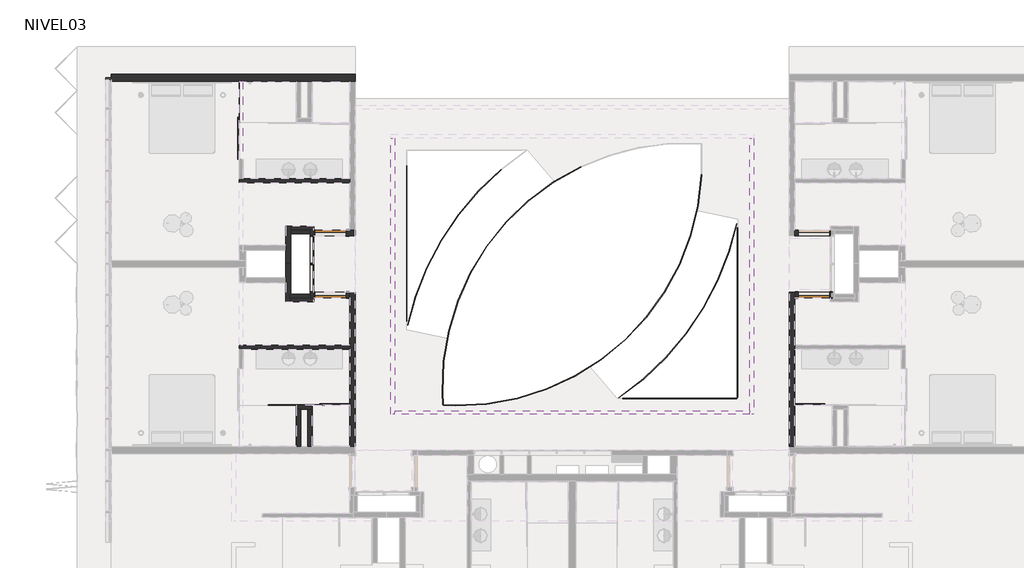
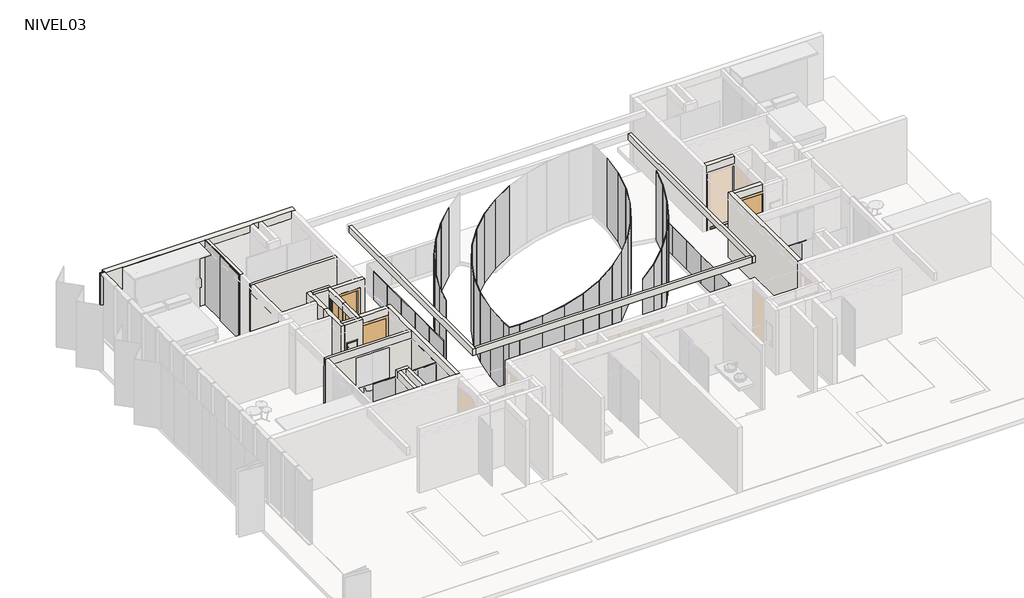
# One storey, part 5 of 8: 56 plates, 30 walls, 5 doors, 1 member.
"""IFC4 building model written with IfcOpenShell, lengths in millimetres."""

from ifc_helpers import new_model, si_unit, frame, origin, place, context, project, spatial, polyline, outline, extrude, faceted_brep, transform, mapped, element, save
from components import m_single_flush_910x_224_a4f79d59, m_single_flush_910x_224_d199ccfa, puerta_closet_shaft_82_5_x_224cm_10222c01, puerta_closet_shaft_82_5_x_224cm_6ba6ac82, rectangular_mullion_50_x_150mm_da4cfd0d, panel_corredera_cr_panel_corredera_1cb9417a, panel_corredera_cr_panel_corredera_99e605cf, panel_corredera_cr_panel_corredera_8db39db7, system_panel_5ccbd7a3, system_panel_34dc83f9, system_panel_bb99d6db, system_panel_d16f8cfc, system_panel_5bddcc3b, system_panel_8f9a12f6, system_panel_c363a63a, system_panel_ba3bad07, system_panel_cr_shower_c0953742, system_panel_cr_shower_685ec66b

model = new_model("IFC4")

# Units and contexts
model_context = context("Model", 3, world=origin())
ifc_project = project(units=[si_unit("LENGTHUNIT", "METRE", prefix="MILLI")], contexts=[model_context])

# Site, building, storey
site = spatial("IfcSite", under=ifc_project)
building = spatial("IfcBuilding", under=site)
storey = spatial("IfcBuildingStorey", under=building, Name="NIVEL03", Elevation=5220.0)

# Doors
placement = place(None, origin())
m_single_flush_910x_224_shape = m_single_flush_910x_224_a4f79d59(model_context)
element("IfcDoor", 1, ObjectType="M_Single-Flush : 910x 224", at=placement, inside=storey, context=model_context, shape_type="MappedRepresentation", body=[
    mapped(m_single_flush_910x_224_shape, transform((-14191.0934748, 6033.9139241, 5220.0), x_axis=(1.0, 0.0, 0.0), y_axis=(0.0, 1.0, 0.0), z_axis=(0.0, 0.0, 1.0))),
])
element("IfcDoor", 2, ObjectType="M_Single-Flush : 910x 224", at=placement, inside=storey, context=model_context, shape_type="MappedRepresentation", body=[
    mapped(m_single_flush_910x_224_shape, transform((-176.0934748, 4233.9139241, 5220.0), x_axis=(-1.0, 0.0, 0.0), y_axis=(0.0, -1.0, 0.0), z_axis=(0.0, 0.0, 1.0))),
])
m_single_flush_910x_224_2_shape = m_single_flush_910x_224_d199ccfa(model_context)
element("IfcDoor", 3, ObjectType="M_Single-Flush : 910x 224", at=placement, inside=storey, context=model_context, shape_type="MappedRepresentation", body=[
    mapped(m_single_flush_910x_224_2_shape, transform((-14191.0934748, 4233.9139241, 5220.0), x_axis=(1.0, 0.0, 0.0), y_axis=(0.0, 1.0, 0.0), z_axis=(0.0, 0.0, 1.0))),
])
puerta_closet_shaft_82_5_x_224cm_shape = puerta_closet_shaft_82_5_x_224cm_10222c01(model_context)
element("IfcDoor", 4, ObjectType="PUERTA CLOSET SHAFT : 82.5 x 224cm", at=placement, inside=storey, context=model_context, shape_type="MappedRepresentation", body=[
    mapped(puerta_closet_shaft_82_5_x_224cm_shape, transform((-14728.5934748, 4404.8823532, 5220.0), x_axis=(0.0, -1.0, 0.0), y_axis=(1.0, 0.0, 0.0), z_axis=(0.0, 0.0, 1.0))),
])
puerta_closet_shaft_82_5_x_224cm_2_shape = puerta_closet_shaft_82_5_x_224cm_6ba6ac82(model_context)
element("IfcDoor", 5, ObjectType="PUERTA CLOSET SHAFT : 82.5 x 224cm", at=placement, inside=storey, context=model_context, shape_type="MappedRepresentation", body=[
    mapped(puerta_closet_shaft_82_5_x_224cm_2_shape, transform((-14728.5934748, 5862.9454949, 5220.0), x_axis=(0.0, 1.0, 0.0), y_axis=(-1.0, 0.0, 0.0), z_axis=(0.0, 0.0, 1.0))),
])

# Member
rectangular_mullion_50_x_150mm_shape = rectangular_mullion_50_x_150mm_da4cfd0d(model_context)
element("IfcMember", 6, ObjectType="Rectangular Mullion : 50 x 150mm", at=placement, inside=storey, context=model_context, shape_type="MappedRepresentation", body=[
    mapped(rectangular_mullion_50_x_150mm_shape, transform((-20633.5934748, 10533.9139241, 7770.0), x_axis=(0.0, 1.0, 0.0), y_axis=(-1.0, 0.0, 0.0), z_axis=(0.0, 0.0, 1.0))),
])

# Plates
panel_corredera_cr_panel_corredera_shape = panel_corredera_cr_panel_corredera_1cb9417a(model_context)
element("IfcPlate", 7, ObjectType="PANEL CORREDERA : CR_PANEL CORREDERA", at=placement, inside=storey, context=model_context, shape_type="MappedRepresentation", body=[
    mapped(panel_corredera_cr_panel_corredera_shape, transform((-13994.9268082, 1033.9139241, 5220.0), x_axis=(-1.0, 0.0, 0.0), y_axis=(0.0, -1.0, 0.0), z_axis=(0.0, 0.0, 1.0))),
])
panel_corredera_cr_panel_corredera_2_shape = panel_corredera_cr_panel_corredera_99e605cf(model_context)
element("IfcPlate", 8, ObjectType="PANEL CORREDERA : CR_PANEL CORREDERA", at=placement, inside=storey, context=model_context, shape_type="MappedRepresentation", body=[
    mapped(panel_corredera_cr_panel_corredera_2_shape, transform((-372.2601415, 1033.9139241, 5220.0), x_axis=(1.0, 0.0, 0.0), y_axis=(0.0, 1.0, 0.0), z_axis=(0.0, 0.0, 1.0))),
])
panel_corredera_cr_panel_corredera_3_shape = panel_corredera_cr_panel_corredera_8db39db7(model_context)
element("IfcPlate", 9, ObjectType="PANEL CORREDERA : CR_PANEL CORREDERA", at=placement, inside=storey, context=model_context, shape_type="MappedRepresentation", body=[
    mapped(panel_corredera_cr_panel_corredera_3_shape, transform((-16848.5934748, 8703.9139241, 5220.0), x_axis=(0.0, 1.0, 0.0), y_axis=(-1.0, 0.0, 0.0), z_axis=(0.0, 0.0, 1.0))),
])
system_panel_shape = system_panel_5ccbd7a3(model_context)
element("IfcPlate", 10, ObjectType="System Panel : CR-BARANDA", at=placement, inside=storey, context=model_context, shape_type="MappedRepresentation", body=[
    mapped(system_panel_shape, transform((-2383.5934748, 5738.757085, 5220.0), x_axis=(0.0, -1.0, 0.0), y_axis=(1.0, 0.0, 0.0), z_axis=(0.0, 0.0, 1.0))),
])
element("IfcPlate", 11, ObjectType="System Panel : CR-BARANDA", at=placement, inside=storey, context=model_context, shape_type="MappedRepresentation", body=[
    mapped(system_panel_shape, transform((-2859.843475, 1233.9139241, 5220.0), x_axis=(-1.0, 0.0, 0.0), y_axis=(0.0, -1.0, 0.0), z_axis=(0.0, 0.0, 1.0))),
])
element("IfcPlate", 12, ObjectType="System Panel : CR-BARANDA", at=placement, inside=storey, context=model_context, shape_type="MappedRepresentation", body=[
    mapped(system_panel_shape, transform((-11983.5934748, 3929.0707631, 5220.0), x_axis=(0.0, 1.0, 0.0), y_axis=(-1.0, 0.0, 0.0), z_axis=(0.0, 0.0, 1.0))),
])
element("IfcPlate", 13, ObjectType="System Panel : CR-BARANDA", at=placement, inside=storey, context=model_context, shape_type="MappedRepresentation", body=[
    mapped(system_panel_shape, transform((-3759.8434752, 1233.9139241, 5220.0), x_axis=(-1.0, 0.0, 0.0), y_axis=(0.0, -1.0, 0.0), z_axis=(0.0, 0.0, 1.0))),
])
element("IfcPlate", 14, ObjectType="System Panel : CR-BARANDA", at=placement, inside=storey, context=model_context, shape_type="MappedRepresentation", body=[
    mapped(system_panel_shape, transform((-4659.8434752, 1233.9139241, 5220.0), x_axis=(-1.0, 0.0, 0.0), y_axis=(0.0, -1.0, 0.0), z_axis=(0.0, 0.0, 1.0))),
])
element("IfcPlate", 15, ObjectType="System Panel : CR-BARANDA", at=placement, inside=storey, context=model_context, shape_type="MappedRepresentation", body=[
    mapped(system_panel_shape, transform((-2383.5934748, 4838.7570848, 5220.0), x_axis=(0.0, -1.0, 0.0), y_axis=(1.0, 0.0, 0.0), z_axis=(0.0, 0.0, 1.0))),
])
element("IfcPlate", 16, ObjectType="System Panel : CR-BARANDA", at=placement, inside=storey, context=model_context, shape_type="MappedRepresentation", body=[
    mapped(system_panel_shape, transform((-2383.5934748, 3938.7570848, 5220.0), x_axis=(0.0, -1.0, 0.0), y_axis=(1.0, 0.0, 0.0), z_axis=(0.0, 0.0, 1.0))),
])
element("IfcPlate", 17, ObjectType="System Panel : CR-BARANDA", at=placement, inside=storey, context=model_context, shape_type="MappedRepresentation", body=[
    mapped(system_panel_shape, transform((-2383.5934748, 3038.7570848, 5220.0), x_axis=(0.0, -1.0, 0.0), y_axis=(1.0, 0.0, 0.0), z_axis=(0.0, 0.0, 1.0))),
])
element("IfcPlate", 18, ObjectType="System Panel : CR-BARANDA", at=placement, inside=storey, context=model_context, shape_type="MappedRepresentation", body=[
    mapped(system_panel_shape, transform((-2383.5934748, 2138.7570848, 5220.0), x_axis=(0.0, -1.0, 0.0), y_axis=(1.0, 0.0, 0.0), z_axis=(0.0, 0.0, 1.0))),
])
element("IfcPlate", 19, ObjectType="System Panel : CR-BARANDA", at=placement, inside=storey, context=model_context, shape_type="MappedRepresentation", body=[
    mapped(system_panel_shape, transform((-11983.5934748, 4829.0707633, 5220.0), x_axis=(0.0, 1.0, 0.0), y_axis=(-1.0, 0.0, 0.0), z_axis=(0.0, 0.0, 1.0))),
])
element("IfcPlate", 20, ObjectType="System Panel : CR-BARANDA", at=placement, inside=storey, context=model_context, shape_type="MappedRepresentation", body=[
    mapped(system_panel_shape, transform((-11983.5934748, 5729.0707633, 5220.0), x_axis=(0.0, 1.0, 0.0), y_axis=(-1.0, 0.0, 0.0), z_axis=(0.0, 0.0, 1.0))),
])
element("IfcPlate", 21, ObjectType="System Panel : CR-BARANDA", at=placement, inside=storey, context=model_context, shape_type="MappedRepresentation", body=[
    mapped(system_panel_shape, transform((-11983.5934748, 6629.0707633, 5220.0), x_axis=(0.0, 1.0, 0.0), y_axis=(-1.0, 0.0, 0.0), z_axis=(0.0, 0.0, 1.0))),
])
element("IfcPlate", 22, ObjectType="System Panel : CR-BARANDA", at=placement, inside=storey, context=model_context, shape_type="MappedRepresentation", body=[
    mapped(system_panel_shape, transform((-11983.5934748, 7529.0707633, 5220.0), x_axis=(0.0, 1.0, 0.0), y_axis=(-1.0, 0.0, 0.0), z_axis=(0.0, 0.0, 1.0))),
])
system_panel_2_shape = system_panel_34dc83f9(model_context)
element("IfcPlate", 23, ObjectType="System Panel : CR-BARANDA", at=placement, inside=storey, context=model_context, shape_type="MappedRepresentation", body=[
    mapped(system_panel_2_shape, transform((-5412.343475, 1233.9139241, 5220.0), x_axis=(-1.0, 0.0, 0.0), y_axis=(0.0, -1.0, 0.0), z_axis=(0.0, 0.0, 1.0))),
])
system_panel_3_shape = system_panel_bb99d6db(model_context)
element("IfcPlate", 24, ObjectType="System Panel : CR-BARANDA", at=placement, inside=storey, context=model_context, shape_type="MappedRepresentation", body=[
    mapped(system_panel_3_shape, transform((-2383.5934748, 1478.757085, 5220.0), x_axis=(0.0, -1.0, 0.0), y_axis=(1.0, 0.0, 0.0), z_axis=(0.0, 0.0, 1.0))),
])
system_panel_4_shape = system_panel_d16f8cfc(model_context)
element("IfcPlate", 25, ObjectType="System Panel : CR-BARANDA", at=placement, inside=storey, context=model_context, shape_type="MappedRepresentation", body=[
    mapped(system_panel_4_shape, transform((-7331.2063026, 7728.1154532, 5220.0), x_axis=(-0.8730074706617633, -0.4877068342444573, 0.0), y_axis=(0.4877068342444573, -0.8730074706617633, 0.0), z_axis=(0.0, 0.0, 1.0))),
])
element("IfcPlate", 26, ObjectType="System Panel : CR-BARANDA", at=placement, inside=storey, context=model_context, shape_type="MappedRepresentation", body=[
    mapped(system_panel_4_shape, transform((-8085.741745, 7240.9048287, 5220.0), x_axis=(-0.8037379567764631, -0.5949834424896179, 0.0), y_axis=(0.5949834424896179, -0.8037379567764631, 0.0), z_axis=(0.0, 0.0, 1.0))),
])
element("IfcPlate", 27, ObjectType="System Panel : CR-BARANDA", at=placement, inside=storey, context=model_context, shape_type="MappedRepresentation", body=[
    mapped(system_panel_4_shape, transform((-8772.0368429, 6661.5112103, 5220.0), x_axis=(-0.7213622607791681, -0.6925579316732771, 0.0), y_axis=(0.6925579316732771, -0.7213622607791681, 0.0), z_axis=(0.0, 0.0, 1.0))),
])
element("IfcPlate", 28, ObjectType="System Panel : CR-BARANDA", at=placement, inside=storey, context=model_context, shape_type="MappedRepresentation", body=[
    mapped(system_panel_4_shape, transform((-9378.9005004, 5999.3825011, 5220.0), x_axis=(-0.6272236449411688, -0.7788391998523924, 0.0), y_axis=(0.7788391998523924, -0.6272236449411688, 0.0), z_axis=(0.0, 0.0, 1.0))),
])
element("IfcPlate", 29, ObjectType="System Panel : CR-BARANDA", at=placement, inside=storey, context=model_context, shape_type="MappedRepresentation", body=[
    mapped(system_panel_4_shape, transform((-9896.4368735, 5265.3157269, 5220.0), x_axis=(-0.5228571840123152, -0.8524202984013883, 0.0), y_axis=(0.8524202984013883, -0.5228571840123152, 0.0), z_axis=(0.0, 0.0, 1.0))),
])
element("IfcPlate", 30, ObjectType="System Panel : CR-BARANDA", at=placement, inside=storey, context=model_context, shape_type="MappedRepresentation", body=[
    mapped(system_panel_4_shape, transform((-10316.2067363, 4471.2809741, 5220.0), x_axis=(-0.40996473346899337, -0.9121013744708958, 0.0), y_axis=(0.9121013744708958, -0.40996473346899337, 0.0), z_axis=(0.0, 0.0, 1.0))),
])
element("IfcPlate", 31, ObjectType="System Panel : CR-BARANDA", at=placement, inside=storey, context=model_context, shape_type="MappedRepresentation", body=[
    mapped(system_panel_4_shape, transform((-10631.3650965, 3630.2261992, 5220.0), x_axis=(-0.2903871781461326, -0.9569092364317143, 0.0), y_axis=(0.9569092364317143, -0.2903871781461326, 0.0), z_axis=(0.0, 0.0, 1.0))),
])
element("IfcPlate", 32, ObjectType="System Panel : CR-BARANDA", at=placement, inside=storey, context=model_context, shape_type="MappedRepresentation", body=[
    mapped(system_panel_4_shape, transform((-10836.7728129, 2755.8660923, 5220.0), x_axis=(-0.16607441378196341, -0.9861132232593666, 0.0), y_axis=(0.9861132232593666, -0.16607441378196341, 0.0), z_axis=(0.0, 0.0, 1.0))),
])
element("IfcPlate", 33, ObjectType="System Panel : CR-BARANDA", at=placement, inside=storey, context=model_context, shape_type="MappedRepresentation", body=[
    mapped(system_panel_4_shape, transform((-10929.0803971, 1862.4584383, 5220.0), x_axis=(-0.03905355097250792, -0.9992371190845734, 0.0), y_axis=(0.9992371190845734, -0.03905355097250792, 0.0), z_axis=(0.0, 0.0, 1.0))),
])
system_panel_5_shape = system_panel_5bddcc3b(model_context)
element("IfcPlate", 34, ObjectType="System Panel : CR-BARANDA", at=placement, inside=storey, context=model_context, shape_type="MappedRepresentation", body=[
    mapped(system_panel_5_shape, transform((-10937.3624941, 1230.0346436, 5220.0), x_axis=(0.05077508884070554, -0.9987101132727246, 0.0), y_axis=(0.9987101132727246, 0.05077508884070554, 0.0), z_axis=(0.0, 0.0, 1.0))),
])
system_panel_6_shape = system_panel_8f9a12f6(model_context)
element("IfcPlate", 35, ObjectType="System Panel : CR-BARANDA", at=placement, inside=storey, context=model_context, shape_type="MappedRepresentation", body=[
    mapped(system_panel_6_shape, transform((-5476.4920391, 1528.1257546, 5220.0), x_axis=(0.7955573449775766, 0.6058782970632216, 0.0), y_axis=(-0.6058782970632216, 0.7955573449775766, 0.0), z_axis=(0.0, 0.0, 1.0))),
])
element("IfcPlate", 36, ObjectType="System Panel : CR-BARANDA", at=placement, inside=storey, context=model_context, shape_type="MappedRepresentation", body=[
    mapped(system_panel_4_shape, transform((-9573.0942482, 7558.7054405, 5220.0), x_axis=(-0.7250107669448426, -0.6887375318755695, 0.0), y_axis=(0.6887375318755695, -0.7250107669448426, 0.0), z_axis=(0.0, 0.0, 1.0))),
])
element("IfcPlate", 37, ObjectType="System Panel : CR-BARANDA", at=placement, inside=storey, context=model_context, shape_type="MappedRepresentation", body=[
    mapped(system_panel_4_shape, transform((-10189.892753, 6905.1394698, 5220.0), x_axis=(-0.6456525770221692, -0.7636312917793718, 0.0), y_axis=(0.7636312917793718, -0.6456525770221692, 0.0), z_axis=(0.0, 0.0, 1.0))),
])
element("IfcPlate", 38, ObjectType="System Panel : CR-BARANDA", at=placement, inside=storey, context=model_context, shape_type="MappedRepresentation", body=[
    mapped(system_panel_4_shape, transform((-10731.8094423, 6188.2606967, 5220.0), x_axis=(-0.558606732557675, -0.8294326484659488, 0.0), y_axis=(0.8294326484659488, -0.558606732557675, 0.0), z_axis=(0.0, 0.0, 1.0))),
])
element("IfcPlate", 39, ObjectType="System Panel : CR-BARANDA", at=placement, inside=storey, context=model_context, shape_type="MappedRepresentation", body=[
    mapped(system_panel_4_shape, transform((-11192.3918238, 5416.6048516, 5220.0), x_axis=(-0.4649096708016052, -0.8853581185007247, 0.0), y_axis=(0.8853581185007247, -0.4649096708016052, 0.0), z_axis=(0.0, 0.0, 1.0))),
])
element("IfcPlate", 40, ObjectType="System Panel : CR-BARANDA", at=placement, inside=storey, context=model_context, shape_type="MappedRepresentation", body=[
    mapped(system_panel_4_shape, transform((-11566.1558363, 4599.3598844, 5220.0), x_axis=(-0.36567702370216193, -0.9307418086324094, 0.0), y_axis=(0.9307418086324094, -0.36567702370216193, 0.0), z_axis=(0.0, 0.0, 1.0))),
])
element("IfcPlate", 41, ObjectType="System Panel : CR-BARANDA", at=placement, inside=storey, context=model_context, shape_type="MappedRepresentation", body=[
    mapped(system_panel_4_shape, transform((-3479.1267798, 7273.6025956, 5220.0), x_axis=(-0.11465787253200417, -0.9934050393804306, 0.0), y_axis=(0.9934050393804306, -0.11465787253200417, 0.0), z_axis=(0.0, 0.0, 1.0))),
])
element("IfcPlate", 42, ObjectType="System Panel : CR-BARANDA", at=placement, inside=storey, context=model_context, shape_type="MappedRepresentation", body=[
    mapped(system_panel_4_shape, transform((-3638.8664144, 6389.7580529, 5220.0), x_axis=(-0.2403190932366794, -0.9706939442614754, 0.0), y_axis=(0.9706939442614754, -0.2403190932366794, 0.0), z_axis=(0.0, 0.0, 1.0))),
])
element("IfcPlate", 43, ObjectType="System Panel : CR-BARANDA", at=placement, inside=storey, context=model_context, shape_type="MappedRepresentation", body=[
    mapped(system_panel_4_shape, transform((-3909.9377002, 5533.4763911, 5220.0), x_axis=(-0.3620615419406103, -0.9321541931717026, 0.0), y_axis=(0.9321541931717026, -0.3620615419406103, 0.0), z_axis=(0.0, 0.0, 1.0))),
])
element("IfcPlate", 44, ObjectType="System Panel : CR-BARANDA", at=placement, inside=storey, context=model_context, shape_type="MappedRepresentation", body=[
    mapped(system_panel_4_shape, transform((-4287.9204035, 4718.720598, 5220.0), x_axis=(-0.4779000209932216, -0.87841423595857, 0.0), y_axis=(0.87841423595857, -0.4779000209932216, 0.0), z_axis=(0.0, 0.0, 1.0))),
])
element("IfcPlate", 45, ObjectType="System Panel : CR-BARANDA", at=placement, inside=storey, context=model_context, shape_type="MappedRepresentation", body=[
    mapped(system_panel_4_shape, transform((-4766.6509357, 3958.7765185, 5220.0), x_axis=(-0.5859456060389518, -0.8103503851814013, 0.0), y_axis=(0.8103503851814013, -0.5859456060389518, 0.0), z_axis=(0.0, 0.0, 1.0))),
])
element("IfcPlate", 46, ObjectType="System Panel : CR-BARANDA", at=placement, inside=storey, context=model_context, shape_type="MappedRepresentation", body=[
    mapped(system_panel_4_shape, transform((-5338.32286, 3266.0362082, 5220.0), x_axis=(-0.6844364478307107, -0.7290725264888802, 0.0), y_axis=(0.7290725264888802, -0.6844364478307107, 0.0), z_axis=(0.0, 0.0, 1.0))),
])
element("IfcPlate", 47, ObjectType="System Panel : CR-BARANDA", at=placement, inside=storey, context=model_context, shape_type="MappedRepresentation", body=[
    mapped(system_panel_4_shape, transform((-5993.6141873, 2651.7958622, 5220.0), x_axis=(-0.7717665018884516, -0.6359060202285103, 0.0), y_axis=(0.6359060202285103, -0.7717665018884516, 0.0), z_axis=(0.0, 0.0, 1.0))),
])
element("IfcPlate", 48, ObjectType="System Panel : CR-BARANDA", at=placement, inside=storey, context=model_context, shape_type="MappedRepresentation", body=[
    mapped(system_panel_4_shape, transform((-6721.8393861, 2126.0716129, 5220.0), x_axis=(-0.8465117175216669, -0.5323700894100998, 0.0), y_axis=(0.5323700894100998, -0.8465117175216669, 0.0), z_axis=(0.0, 0.0, 1.0))),
])
element("IfcPlate", 49, ObjectType="System Panel : CR-BARANDA", at=placement, inside=storey, context=model_context, shape_type="MappedRepresentation", body=[
    mapped(system_panel_4_shape, transform((-7511.1236256, 1697.4362017, 5220.0), x_axis=(-0.9074532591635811, -0.42015304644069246, 0.0), y_axis=(0.42015304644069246, -0.9074532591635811, 0.0), z_axis=(0.0, 0.0, 1.0))),
])
element("IfcPlate", 50, ObjectType="System Panel : CR-BARANDA", at=placement, inside=storey, context=model_context, shape_type="MappedRepresentation", body=[
    mapped(system_panel_4_shape, transform((-8348.5964138, 1372.8791877, 5220.0), x_axis=(-0.9535973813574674, -0.301084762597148, 0.0), y_axis=(0.301084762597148, -0.9535973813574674, 0.0), z_axis=(0.0, 0.0, 1.0))),
])
element("IfcPlate", 51, ObjectType="System Panel : CR-BARANDA", at=placement, inside=storey, context=model_context, shape_type="MappedRepresentation", body=[
    mapped(system_panel_4_shape, transform((-9220.6014704, 1157.6929714, 5220.0), x_axis=(-0.9841916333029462, -0.1771068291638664, 0.0), y_axis=(0.1771068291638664, -0.9841916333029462, 0.0), z_axis=(0.0, 0.0, 1.0))),
])
element("IfcPlate", 52, ObjectType="System Panel : CR-BARANDA", at=placement, inside=storey, context=model_context, shape_type="MappedRepresentation", body=[
    mapped(system_panel_4_shape, transform((-10112.9194133, 1055.3864947, 5220.0), x_axis=(-0.9987371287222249, -0.0502408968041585, 0.0), y_axis=(0.0502408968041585, -0.9987371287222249, 0.0), z_axis=(0.0, 0.0, 1.0))),
])
element("IfcPlate", 53, ObjectType="System Panel : CR-BARANDA", at=placement, inside=storey, context=model_context, shape_type="MappedRepresentation", body=[
    mapped(system_panel_4_shape, transform((-4792.328012, 2110.7993037, 5220.0), x_axis=(0.724807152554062, 0.6889518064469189, 0.0), y_axis=(-0.6889518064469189, 0.724807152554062, 0.0), z_axis=(0.0, 0.0, 1.0))),
])
element("IfcPlate", 54, ObjectType="System Panel : CR-BARANDA", at=placement, inside=storey, context=model_context, shape_type="MappedRepresentation", body=[
    mapped(system_panel_4_shape, transform((-4175.7227206, 2764.5475642, 5220.0), x_axis=(0.6454268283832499, 0.7638221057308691, 0.0), y_axis=(-0.7638221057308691, 0.6454268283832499, 0.0), z_axis=(0.0, 0.0, 1.0))),
])
element("IfcPlate", 55, ObjectType="System Panel : CR-BARANDA", at=placement, inside=storey, context=model_context, shape_type="MappedRepresentation", body=[
    mapped(system_panel_4_shape, transform((-3634.0179559, 3481.5864902, 5220.0), x_axis=(0.5583615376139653, 0.8295977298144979, 0.0), y_axis=(-0.8295977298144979, 0.5583615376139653, 0.0), z_axis=(0.0, 0.0, 1.0))),
])
element("IfcPlate", 56, ObjectType="System Panel : CR-BARANDA", at=placement, inside=storey, context=model_context, shape_type="MappedRepresentation", body=[
    mapped(system_panel_4_shape, transform((-3173.6636869, 4253.3784444, 5220.0), x_axis=(0.4646479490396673, 0.8854955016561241, 0.0), y_axis=(-0.8854955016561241, 0.4646479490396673, 0.0), z_axis=(0.0, 0.0, 1.0))),
])
element("IfcPlate", 57, ObjectType="System Panel : CR-BARANDA", at=placement, inside=storey, context=model_context, shape_type="MappedRepresentation", body=[
    mapped(system_panel_4_shape, transform((-2800.1412587, 5070.7338561, 5220.0), x_axis=(0.36540189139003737, 0.9308498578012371, 0.0), y_axis=(-0.9308498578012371, 0.36540189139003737, 0.0), z_axis=(0.0, 0.0, 1.0))),
])
element("IfcPlate", 58, ObjectType="System Panel : CR-BARANDA", at=placement, inside=storey, context=model_context, shape_type="MappedRepresentation", body=[
    mapped(system_panel_5_shape, transform((-10745.2108072, 1040.0228218, 5220.0), x_axis=(-0.9992160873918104, 0.039588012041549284, 0.0), y_axis=(-0.039588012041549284, -0.9992160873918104, 0.0), z_axis=(0.0, 0.0, 1.0))),
])
system_panel_7_shape = system_panel_c363a63a(model_context)
element("IfcPlate", 59, ObjectType="System Panel : CR-BARANDA", at=placement, inside=storey, context=model_context, shape_type="MappedRepresentation", body=[
    mapped(system_panel_7_shape, transform((-2523.9277538, 5896.1430611, 5220.0), x_axis=(0.2651295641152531, 0.9642127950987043, 0.0), y_axis=(-0.9642127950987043, 0.2651295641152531, 0.0), z_axis=(0.0, 0.0, 1.0))),
])
system_panel_8_shape = system_panel_ba3bad07(model_context)
element("IfcPlate", 60, ObjectType="System Panel : CR-BARANDA", at=placement, inside=storey, context=model_context, shape_type="MappedRepresentation", body=[
    mapped(system_panel_8_shape, transform((-11842.8761734, 3772.8420443, 5220.0), x_axis=(-0.2652720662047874, -0.9641735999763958, 0.0), y_axis=(0.9641735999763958, -0.2652720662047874, 0.0), z_axis=(0.0, 0.0, 1.0))),
])
system_panel_cr_shower_shape = system_panel_cr_shower_c0953742(model_context)
element("IfcPlate", 61, ObjectType="System Panel : CR-SHOWER", at=placement, inside=storey, context=model_context, shape_type="MappedRepresentation", body=[
    mapped(system_panel_cr_shower_shape, transform((-15178.9268082, 1033.9139241, 5220.0), x_axis=(1.0, 0.0, 0.0), y_axis=(0.0, 1.0, 0.0), z_axis=(0.0, 0.0, 1.0))),
])
system_panel_cr_shower_2_shape = system_panel_cr_shower_685ec66b(model_context)
element("IfcPlate", 62, ObjectType="System Panel : CR-SHOWER", at=placement, inside=storey, context=model_context, shape_type="MappedRepresentation", body=[
    mapped(system_panel_cr_shower_2_shape, transform((-16848.5934748, 9833.9139241, 5220.0), x_axis=(0.0, 1.0, 0.0), y_axis=(-1.0, 0.0, 0.0), z_axis=(0.0, 0.0, 1.0))),
])

# Walls
element("IfcWall", 63, ObjectType="SCV.TI.A.150.120.212.47.1", at=placement, inside=storey, context=model_context, shape_type="Brep", body=[
    faceted_brep([(-13483.5934748, -166.0860759, 5200.0), (-13483.5934748, 4308.9139241, 5200.0), (-13483.5934748, 4308.9139241, 7770.0), (-13483.5934748, -166.0860759, 7770.0), (-13633.5934748, -166.0860759, 5200.0), (-13633.5934748, -166.0860759, 7770.0), (-13633.5934748, 2673.9139241, 7770.0), (-13633.5934748, 2783.9139241, 7770.0), (-13633.5934748, 4158.9139241, 7770.0), (-13633.5934748, 4308.9139241, 7770.0), (-13633.5934748, 4308.9139241, 5200.0), (-13633.5934748, 4158.9139241, 5200.0), (-13633.5934748, 2783.9139241, 5200.0), (-13633.5934748, 2673.9139241, 5200.0)], [[[0, 1, 2, 3]], [[4, 5, 6, 7, 8, 9, 10, 11, 12, 13]], [[1, 0, 4, 13, 12, 11, 10]], [[3, 2, 9, 8, 7, 6, 5]], [[2, 1, 10, 9]], [[0, 3, 5, 4]]]),
])
element("IfcWall", 64, ObjectType="SCV.TI.A.150.120.212.47.1", at=placement, inside=storey, context=model_context, shape_type="Brep", body=[
    faceted_brep([(-733.5934748, -166.0860759, 5200.0), (-733.5934748, 2673.9139241, 5200.0), (-733.5934748, 2783.9139241, 5200.0), (-733.5934748, 4158.9139241, 5200.0), (-733.5934748, 4308.9139241, 5200.0), (-733.5934748, 4308.9139241, 7770.0), (-733.5934748, 4158.9139241, 7770.0), (-733.5934748, 2783.9139241, 7770.0), (-733.5934748, 2673.9139241, 7770.0), (-733.5934748, -166.0860759, 7770.0), (-883.5934748, -166.0860759, 5200.0), (-883.5934748, -166.0860759, 7770.0), (-883.5934748, 4308.9139241, 7770.0), (-883.5934748, 4308.9139241, 5200.0)], [[[0, 1, 2, 3, 4, 5, 6, 7, 8, 9]], [[10, 11, 12, 13]], [[4, 3, 2, 1, 0, 10, 13]], [[9, 8, 7, 6, 5, 12, 11]], [[5, 4, 13, 12]], [[0, 9, 11, 10]]]),
])
element("IfcWall", 65, ObjectType="SCV.TI.A.110.090.143.47.1", at=placement, inside=storey, context=model_context, shape_type="Brep", body=[
    faceted_brep([(-14783.5934748, 6123.9139241, 5200.0), (-14783.5934748, 6013.9139241, 5200.0), (-14783.5934748, 5128.3504322, 5200.0), (-14783.5934748, 5128.3504322, 7770.0), (-14783.5934748, 6013.9139241, 7770.0), (-14783.5934748, 6123.9139241, 7770.0), (-14783.5934748, 5958.9139241, 7460.0), (-14783.5934748, 5133.9139241, 7460.0), (-14783.5934748, 5133.9139241, 5220.0), (-14783.5934748, 5958.9139241, 5220.0), (-14673.5934748, 5128.3504322, 5200.0), (-14673.5934748, 5958.9139241, 5200.0), (-14673.5934748, 6108.9139241, 5200.0), (-14673.5934748, 6123.9139241, 5200.0), (-14673.5934748, 6123.9139241, 7770.0), (-14673.5934748, 6108.9139241, 7770.0), (-14673.5934748, 5958.9139241, 7770.0), (-14673.5934748, 5128.3504322, 7770.0), (-14673.5934748, 5133.9139241, 7460.0), (-14673.5934748, 5958.9139241, 7460.0), (-14673.5934748, 5958.9139241, 5220.0), (-14673.5934748, 5133.9139241, 5220.0)], [[[0, 1, 2, 3, 4, 5], [6, 7, 8, 9]], [[10, 11, 12, 13, 14, 15, 16, 17], [18, 19, 20, 21]], [[2, 1, 0, 13, 12, 11, 10]], [[3, 2, 10, 17]], [[5, 4, 3, 17, 16, 15, 14]], [[6, 19, 18, 7]], [[8, 21, 20, 9]], [[19, 6, 9, 20]], [[21, 8, 7, 18]], [[0, 5, 14, 13]]]),
])
element("IfcWall", 66, ObjectType="SCV.TI.A.150.120.212.47.1", at=placement, inside=storey, context=model_context, shape_type="Brep", body=[
    faceted_brep([(-13483.5934748, 6108.9139241, 5200.0), (-13633.5934748, 6108.9139241, 5200.0), (-14673.5934748, 6108.9139241, 5200.0), (-14673.5934748, 6108.9139241, 7770.0), (-13633.5934748, 6108.9139241, 7770.0), (-13483.5934748, 6108.9139241, 7770.0), (-14648.5934748, 6108.9139241, 5220.0), (-13733.5934748, 6108.9139241, 5220.0), (-13733.5934748, 6108.9139241, 7420.0), (-14648.5934748, 6108.9139241, 7420.0), (-14673.5934748, 5958.9139241, 5200.0), (-13483.5934748, 5958.9139241, 5200.0), (-13483.5934748, 5958.9139241, 7770.0), (-14673.5934748, 5958.9139241, 7770.0), (-14673.5934748, 5958.9139241, 7460.0), (-14673.5934748, 5958.9139241, 5220.0), (-13733.5934748, 5958.9139241, 5220.0), (-14648.5934748, 5958.9139241, 5220.0), (-14648.5934748, 5958.9139241, 7420.0), (-13733.5934748, 5958.9139241, 7420.0)], [[[0, 1, 2, 3, 4, 5], [6, 7, 8, 9]], [[10, 11, 12, 13, 14, 15], [16, 17, 18, 19]], [[2, 1, 0, 11, 10]], [[5, 4, 3, 13, 12]], [[6, 17, 16, 7]], [[8, 19, 18, 9]], [[17, 6, 9, 18]], [[19, 8, 7, 16]], [[0, 5, 12, 11]], [[3, 2, 10, 15, 14, 13]]]),
])
element("IfcWall", 67, ObjectType="SCV.TI.A.110.090.143.47.1", at=placement, inside=storey, context=model_context, shape_type="Brep", body=[
    faceted_brep([(-13633.5934748, 7593.9139241, 5200.0), (-16738.5934748, 7593.9139241, 5200.0), (-16848.5934748, 7593.9139241, 5200.0), (-16848.5934748, 7593.9139241, 7770.0), (-16738.5934748, 7593.9139241, 7770.0), (-13633.5934748, 7593.9139241, 7770.0), (-13633.5934748, 7483.9139241, 5200.0), (-13633.5934748, 7483.9139241, 7770.0), (-16738.5934748, 7483.9139241, 7770.0), (-16848.5934748, 7483.9139241, 7770.0), (-16848.5934748, 7483.9139241, 7470.0), (-16848.5934748, 7483.9139241, 5200.0)], [[[0, 1, 2, 3, 4, 5]], [[6, 7, 8, 9, 10, 11]], [[2, 1, 0, 6, 11]], [[5, 4, 3, 9, 8, 7]], [[0, 5, 7, 6]], [[2, 11, 10, 9, 3]]]),
])
element("IfcWall", 68, ObjectType="SCV.TI.A.110.090.143.47.1", at=placement, inside=storey, context=model_context, shape_type="Brep", body=[
    faceted_brep([(-14673.5934748, 6233.9139241, 5200.0), (-15343.5934748, 6233.9139241, 5200.0), (-15343.5934748, 6233.9139241, 7770.0), (-14673.5934748, 6233.9139241, 7770.0), (-14673.5934748, 6123.9139241, 5200.0), (-14673.5934748, 6123.9139241, 7770.0), (-14783.5934748, 6123.9139241, 7770.0), (-15343.5934748, 6123.9139241, 7770.0), (-15343.5934748, 6123.9139241, 5200.0), (-14783.5934748, 6123.9139241, 5200.0)], [[[0, 1, 2, 3]], [[4, 5, 6, 7, 8, 9]], [[1, 0, 4, 9, 8]], [[3, 2, 7, 6, 5]], [[0, 3, 5, 4]], [[2, 1, 8, 7]]]),
])
element("IfcWall", 69, ObjectType="REV-PORCELANATO_60*60", at=placement, inside=storey, context=model_context, shape_type="Brep", body=[
    faceted_brep([(-13633.5934748, 7603.9139241, 5240.0), (-13643.5934748, 7603.9139241, 5240.0), (-16728.5934748, 7603.9139241, 5240.0), (-16728.5934748, 7603.9139241, 7480.0), (-13643.5934748, 7603.9139241, 7480.0), (-13633.5934748, 7603.9139241, 7480.0), (-13633.5934748, 7593.9139241, 5240.0), (-13633.5934748, 7593.9139241, 7480.0), (-16728.5934748, 7593.9139241, 7480.0), (-16728.5934748, 7593.9139241, 5240.0)], [[[0, 1, 2, 3, 4, 5]], [[6, 7, 8, 9]], [[2, 1, 0, 6, 9]], [[5, 4, 3, 8, 7]], [[0, 5, 7, 6]], [[3, 2, 9, 8]]]),
])
element("IfcWall", 70, ObjectType="SCV.TI.A.110.090.143.47.1 2", at=placement, inside=storey, context=model_context, shape_type="SweptSolid", body=[
    extrude(outline(polyline([(-16848.5934748, 8173.9139241), (-16848.5934748, 10428.9139241), (-16738.5934748, 10428.9139241), (-16738.5934748, 8173.9139241), (-16848.5934748, 8173.9139241)])), frame((0.0, 0.0, 7470.0), z_axis=(0.0, 0.0, 1.0), x_axis=(1.0, 0.0, 0.0)), (0.0, 0.0, 1.0), 300.0),
])
element("IfcWall", 71, ObjectType="SCV.TI.A.110.090.143.47.1 2", at=placement, inside=storey, context=model_context, shape_type="Brep", body=[
    faceted_brep([(-12443.5934748, 773.9139241, 7770.0), (-12443.5934748, 8783.9139241, 7770.0), (-12443.5934748, 8783.9139241, 7525.0), (-12443.5934748, 773.9139241, 7525.0), (-12333.5934748, 8783.9139241, 7770.0), (-12333.5934748, 883.9139241, 7770.0), (-12333.5934748, 773.9139241, 7770.0), (-12333.5934748, 773.9139241, 7525.0), (-12333.5934748, 883.9139241, 7525.0), (-12333.5934748, 8783.9139241, 7525.0)], [[[0, 1, 2, 3]], [[4, 5, 6, 7, 8, 9]], [[1, 0, 6, 5, 4]], [[6, 0, 3, 7]], [[1, 4, 9, 2]], [[3, 2, 9, 8, 7]]]),
])
element("IfcWall", 72, ObjectType="SCV.TI.A.110.090.143.47.1 2", at=placement, inside=storey, context=model_context, shape_type="Brep", body=[
    faceted_brep([(-1923.5934748, 8783.9139241, 7770.0), (-1923.5934748, 773.9139241, 7770.0), (-1923.5934748, 773.9139241, 7525.0), (-1923.5934748, 8783.9139241, 7525.0), (-2033.5934748, 773.9139241, 7770.0), (-2033.5934748, 883.9139241, 7770.0), (-2033.5934748, 8783.9139241, 7770.0), (-2033.5934748, 8783.9139241, 7525.0), (-2033.5934748, 883.9139241, 7525.0), (-2033.5934748, 773.9139241, 7525.0)], [[[0, 1, 2, 3]], [[4, 5, 6, 7, 8, 9]], [[1, 0, 6, 5, 4]], [[1, 4, 9, 2]], [[6, 0, 3, 7]], [[3, 2, 9, 8, 7]]]),
])
element("IfcWall", 73, ObjectType="SCV.TI.A.110.090.143.47.1 2", at=placement, inside=storey, context=model_context, shape_type="SweptSolid", body=[
    extrude(outline(polyline([(-2033.5934748, 773.9139241), (-12333.5934748, 773.9139241), (-12333.5934748, 883.9139241), (-2033.5934748, 883.9139241), (-2033.5934748, 773.9139241)])), frame((0.0, 0.0, 7525.0), z_axis=(0.0, 0.0, 1.0), x_axis=(1.0, 0.0, 0.0)), (0.0, 0.0, 1.0), 245.0),
])
element("IfcWall", 74, ObjectType="SCV.TI.A.110.090.143.47.1", at=placement, inside=storey, context=model_context, shape_type="SweptSolid", body=[
    extrude(outline(polyline([(-15373.5934748, 6123.9139241), (-14783.5934748, 6123.9139241), (-14783.5934748, 6013.9139241), (-15373.5934748, 6013.9139241), (-15373.5934748, 6123.9139241)])), frame((0.0, 0.0, 5200.0), z_axis=(0.0, 0.0, 1.0), x_axis=(1.0, 0.0, 0.0)), (0.0, 0.0, 1.0), 2570.0),
])
element("IfcWall", 75, ObjectType="SCV.TI.A.150.120.212.47.1", at=placement, inside=storey, context=model_context, shape_type="Brep", body=[
    faceted_brep([(-15343.5934748, 5133.9139241, 5200.0), (-15343.5934748, 6123.9139241, 5200.0), (-15343.5934748, 6233.9139241, 5200.0), (-15343.5934748, 6233.9139241, 7770.0), (-15343.5934748, 6123.9139241, 7770.0), (-15343.5934748, 5133.9139241, 7770.0), (-15493.5934748, 5133.9139241, 5200.0), (-15493.5934748, 5133.9139241, 7770.0), (-15493.5934748, 5533.9139241, 7770.0), (-15493.5934748, 5683.9139241, 7770.0), (-15493.5934748, 6233.9139241, 7770.0), (-15493.5934748, 6233.9139241, 5200.0), (-15493.5934748, 5683.9139241, 5200.0), (-15493.5934748, 5533.9139241, 5200.0)], [[[0, 1, 2, 3, 4, 5]], [[6, 7, 8, 9, 10, 11, 12, 13]], [[2, 1, 0, 6, 13, 12, 11]], [[5, 4, 3, 10, 9, 8, 7]], [[0, 5, 7, 6]], [[3, 2, 11, 10]]]),
])
element("IfcWall", 76, ObjectType="SCV.TI.A.150.120.212.47.1", at=placement, inside=storey, context=model_context, shape_type="Brep", body=[
    faceted_brep([(-733.5934748, 5958.9139241, 5200.0), (306.4065252, 5958.9139241, 5200.0), (306.4065252, 5958.9139241, 5220.0), (306.4065252, 5958.9139241, 7460.0), (306.4065252, 5958.9139241, 7770.0), (-733.5934748, 5958.9139241, 7770.0), (281.4065252, 5958.9139241, 5220.0), (-633.5934748, 5958.9139241, 5220.0), (-633.5934748, 5958.9139241, 7420.0), (281.4065252, 5958.9139241, 7420.0), (306.4065252, 6108.9139241, 5200.0), (-733.5934748, 6108.9139241, 5200.0), (-733.5934748, 6108.9139241, 7770.0), (306.4065252, 6108.9139241, 7770.0), (-633.5934748, 6108.9139241, 5220.0), (281.4065252, 6108.9139241, 5220.0), (281.4065252, 6108.9139241, 7420.0), (-633.5934748, 6108.9139241, 7420.0)], [[[0, 1, 2, 3, 4, 5], [6, 7, 8, 9]], [[10, 11, 12, 13], [14, 15, 16, 17]], [[1, 0, 11, 10]], [[5, 4, 13, 12]], [[6, 15, 14, 7]], [[8, 17, 16, 9]], [[15, 6, 9, 16]], [[17, 8, 7, 14]], [[4, 3, 2, 1, 10, 13]], [[0, 5, 12, 11]]]),
])
element("IfcWall", 77, ObjectType="SCV.TI.A.110.090.143.47.1", at=placement, inside=storey, context=model_context, shape_type="Brep", body=[
    faceted_brep([(-14673.5934748, 4143.9139241, 5200.0), (-14673.5934748, 4158.9139241, 5200.0), (-14673.5934748, 4308.9139241, 5200.0), (-14673.5934748, 5139.4774159, 5200.0), (-14673.5934748, 5139.4774159, 5220.0), (-14673.5934748, 4308.9139241, 5220.0), (-14673.5934748, 4308.9139241, 7460.0), (-14673.5934748, 5139.4774159, 7460.0), (-14673.5934748, 5139.4774159, 7770.0), (-14673.5934748, 4308.9139241, 7770.0), (-14673.5934748, 4158.9139241, 7770.0), (-14673.5934748, 4143.9139241, 7770.0), (-14783.5934748, 5139.4774159, 5200.0), (-14783.5934748, 4253.9139241, 5200.0), (-14783.5934748, 4143.9139241, 5200.0), (-14783.5934748, 4143.9139241, 7770.0), (-14783.5934748, 4253.9139241, 7770.0), (-14783.5934748, 5139.4774159, 7770.0), (-14783.5934748, 5139.4774159, 7460.0), (-14783.5934748, 4308.9139241, 7460.0), (-14783.5934748, 4308.9139241, 5220.0), (-14783.5934748, 5139.4774159, 5220.0)], [[[0, 1, 2, 3, 4, 5, 6, 7, 8, 9, 10, 11]], [[12, 13, 14, 15, 16, 17, 18, 19, 20, 21]], [[3, 2, 1, 0, 14, 13, 12]], [[3, 12, 21, 4]], [[17, 8, 7, 18]], [[11, 10, 9, 8, 17, 16, 15]], [[6, 19, 18, 7]], [[20, 5, 4, 21]], [[5, 20, 19, 6]], [[0, 11, 15, 14]]]),
])
element("IfcWall", 78, ObjectType="SCV.TI.A.150.120.212.47.1", at=placement, inside=storey, context=model_context, shape_type="Brep", body=[
    faceted_brep([(-13633.5934748, 4308.9139241, 5200.0), (-14673.5934748, 4308.9139241, 5200.0), (-14673.5934748, 4308.9139241, 5220.0), (-14673.5934748, 4308.9139241, 7460.0), (-14673.5934748, 4308.9139241, 7770.0), (-13633.5934748, 4308.9139241, 7770.0), (-14648.5934748, 4308.9139241, 5220.0), (-13733.5934748, 4308.9139241, 5220.0), (-13733.5934748, 4308.9139241, 7420.0), (-14648.5934748, 4308.9139241, 7420.0), (-14673.5934748, 4158.9139241, 5200.0), (-13633.5934748, 4158.9139241, 5200.0), (-13633.5934748, 4158.9139241, 7770.0), (-14673.5934748, 4158.9139241, 7770.0), (-13733.5934748, 4158.9139241, 5220.0), (-14648.5934748, 4158.9139241, 5220.0), (-14648.5934748, 4158.9139241, 7420.0), (-13733.5934748, 4158.9139241, 7420.0)], [[[0, 1, 2, 3, 4, 5], [6, 7, 8, 9]], [[10, 11, 12, 13], [14, 15, 16, 17]], [[1, 0, 11, 10]], [[5, 4, 13, 12]], [[6, 15, 14, 7]], [[8, 17, 16, 9]], [[15, 6, 9, 16]], [[17, 8, 7, 14]], [[4, 3, 2, 1, 10, 13]], [[0, 5, 12, 11]]]),
])
element("IfcWall", 79, ObjectType="SCV.TI.A.110.090.143.47.1", at=placement, inside=storey, context=model_context, shape_type="Brep", body=[
    faceted_brep([(-13633.5934748, 2783.9139241, 5200.0), (-16848.5934748, 2783.9139241, 5200.0), (-16848.5934748, 2783.9139241, 7470.0), (-16848.5934748, 2783.9139241, 7770.0), (-16738.5934748, 2783.9139241, 7770.0), (-13633.5934748, 2783.9139241, 7770.0), (-13633.5934748, 2673.9139241, 5200.0), (-13633.5934748, 2673.9139241, 7770.0), (-16738.5934748, 2673.9139241, 7770.0), (-16848.5934748, 2673.9139241, 7770.0), (-16848.5934748, 2673.9139241, 5200.0), (-16738.5934748, 2673.9139241, 5200.0)], [[[0, 1, 2, 3, 4, 5]], [[6, 7, 8, 9, 10, 11]], [[1, 0, 6, 11, 10]], [[5, 4, 3, 9, 8, 7]], [[3, 2, 1, 10, 9]], [[0, 5, 7, 6]]]),
])
element("IfcWall", 80, ObjectType="SCV.TI.A.110.090.143.47.1", at=placement, inside=storey, context=model_context, shape_type="Brep", body=[
    faceted_brep([(-14673.5934748, 4143.9139241, 5200.0), (-14783.5934748, 4143.9139241, 5200.0), (-15343.5934748, 4143.9139241, 5200.0), (-15343.5934748, 4143.9139241, 7770.0), (-14783.5934748, 4143.9139241, 7770.0), (-14673.5934748, 4143.9139241, 7770.0), (-14673.5934748, 4033.9139241, 5200.0), (-14673.5934748, 4033.9139241, 7770.0), (-15343.5934748, 4033.9139241, 7770.0), (-15343.5934748, 4033.9139241, 5200.0)], [[[0, 1, 2, 3, 4, 5]], [[6, 7, 8, 9]], [[2, 1, 0, 6, 9]], [[5, 4, 3, 8, 7]], [[0, 5, 7, 6]], [[3, 2, 9, 8]]]),
])
element("IfcWall", 81, ObjectType="SCV.TI.A.120.120.122.46.2", at=placement, inside=storey, context=model_context, shape_type="SweptSolid", body=[
    extrude(outline(polyline([(-15053.5934748, 913.9139241), (-15053.5934748, -166.0860759), (-15173.5934748, -166.0860759), (-15173.5934748, 913.9139241), (-15053.5934748, 913.9139241)])), frame((0.0, 0.0, 5200.0), z_axis=(0.0, 0.0, 1.0), x_axis=(1.0, 0.0, 0.0)), (0.0, 0.0, 1.0), 2570.0),
])
element("IfcWall", 82, ObjectType="SCV.TI.A.120.120.122.46.2", at=placement, inside=storey, context=model_context, shape_type="Brep", body=[
    faceted_brep([(-15173.5934748, 913.9139241, 5200.0), (-15053.5934748, 913.9139241, 5200.0), (-14853.5934748, 913.9139241, 5200.0), (-14733.5934748, 913.9139241, 5200.0), (-14733.5934748, 913.9139241, 7770.0), (-14853.5934748, 913.9139241, 7770.0), (-15053.5934748, 913.9139241, 7770.0), (-15173.5934748, 913.9139241, 7770.0), (-15173.5934748, 1033.9139241, 5200.0), (-15173.5934748, 1033.9139241, 7770.0), (-14733.5934748, 1033.9139241, 7770.0), (-14733.5934748, 1033.9139241, 5200.0)], [[[0, 1, 2, 3, 4, 5, 6, 7]], [[8, 9, 10, 11]], [[3, 2, 1, 0, 8, 11]], [[7, 6, 5, 4, 10, 9]], [[4, 3, 11, 10]], [[0, 7, 9, 8]]]),
])
element("IfcWall", 83, ObjectType="SCV.TI.A.120.120.122.46.2", at=placement, inside=storey, context=model_context, shape_type="SweptSolid", body=[
    extrude(outline(polyline([(-14853.5934748, -166.0860759), (-14853.5934748, 913.9139241), (-14733.5934748, 913.9139241), (-14733.5934748, -166.0860759), (-14853.5934748, -166.0860759)])), frame((0.0, 0.0, 5200.0), z_axis=(0.0, 0.0, 1.0), x_axis=(1.0, 0.0, 0.0)), (0.0, 0.0, 1.0), 2570.0),
])
element("IfcWall", 84, ObjectType="REV-PORCELANATO_60*60", at=placement, inside=storey, context=model_context, shape_type="Brep", body=[
    faceted_brep([(-13633.5934748, 2673.9139241, 5240.0), (-16728.5934748, 2673.9139241, 5240.0), (-16728.5934748, 2673.9139241, 7480.0), (-13633.5934748, 2673.9139241, 7480.0), (-13633.5934748, 2663.9139241, 5240.0), (-13633.5934748, 2663.9139241, 7480.0), (-13643.5934748, 2663.9139241, 7480.0), (-16728.5934748, 2663.9139241, 7480.0), (-16728.5934748, 2663.9139241, 5240.0), (-13643.5934748, 2663.9139241, 5240.0)], [[[0, 1, 2, 3]], [[4, 5, 6, 7, 8, 9]], [[1, 0, 4, 9, 8]], [[3, 2, 7, 6, 5]], [[0, 3, 5, 4]], [[2, 1, 8, 7]]]),
])
element("IfcWall", 85, ObjectType="REV-PORCELANATO_60*60", at=placement, inside=storey, context=model_context, shape_type="Brep", body=[
    faceted_brep([(-13643.5934748, 2663.9139241, 5240.0), (-13643.5934748, -156.0860759, 5240.0), (-13643.5934748, -166.0860759, 5240.0), (-13643.5934748, -166.0860759, 7480.0), (-13643.5934748, -156.0860759, 7480.0), (-13643.5934748, 2663.9139241, 7480.0), (-13633.5934748, 2663.9139241, 5240.0), (-13633.5934748, 2663.9139241, 7480.0), (-13633.5934748, -166.0860759, 7480.0), (-13633.5934748, -166.0860759, 5240.0)], [[[0, 1, 2, 3, 4, 5]], [[6, 7, 8, 9]], [[2, 1, 0, 6, 9]], [[5, 4, 3, 8, 7]], [[3, 2, 9, 8]], [[0, 5, 7, 6]]]),
])
element("IfcWall", 86, ObjectType="REV-PORCELANATO_60*60", at=placement, inside=storey, context=model_context, shape_type="SweptSolid", body=[
    extrude(outline(polyline([(-14733.5934748, -156.0860759), (-14733.5934748, 1033.9139241), (-14723.5934748, 1033.9139241), (-14723.5934748, -156.0860759), (-14733.5934748, -156.0860759)])), frame((0.0, 0.0, 5240.0), z_axis=(0.0, 0.0, 1.0), x_axis=(1.0, 0.0, 0.0)), (0.0, 0.0, 1.0), 2240.0),
])
element("IfcWall", 87, ObjectType="REV-PORCELANATO_60*60", at=placement, inside=storey, context=model_context, shape_type="Brep", body=[
    faceted_brep([(-15183.5934748, 1033.9139241, 5220.0), (-15183.5934748, -156.0860759, 5220.0), (-15183.5934748, -166.0860759, 5220.0), (-15183.5934748, -166.0860759, 7480.0), (-15183.5934748, -156.0860759, 7480.0), (-15183.5934748, 1033.9139241, 7480.0), (-15173.5934748, 1033.9139241, 5220.0), (-15173.5934748, 1033.9139241, 7480.0), (-15173.5934748, -166.0860759, 7480.0), (-15173.5934748, -166.0860759, 5220.0)], [[[0, 1, 2, 3, 4, 5]], [[6, 7, 8, 9]], [[2, 1, 0, 6, 9]], [[5, 4, 3, 8, 7]], [[0, 5, 7, 6]], [[3, 2, 9, 8]]]),
])
element("IfcWall", 88, ObjectType="SCV.TI.A.110.090.143.47.1", at=placement, inside=storey, context=model_context, shape_type="SweptSolid", body=[
    extrude(outline(polyline([(-15373.5934748, 4253.9139241), (-14783.5934748, 4253.9139241), (-14783.5934748, 4143.9139241), (-15373.5934748, 4143.9139241), (-15373.5934748, 4253.9139241)])), frame((0.0, 0.0, 5200.0), z_axis=(0.0, 0.0, 1.0), x_axis=(1.0, 0.0, 0.0)), (0.0, 0.0, 1.0), 2570.0),
])
element("IfcWall", 89, ObjectType="SCV.TI.A.150.120.212.47.1", at=placement, inside=storey, context=model_context, shape_type="Brep", body=[
    faceted_brep([(-15493.5934748, 5133.9139241, 5200.0), (-15493.5934748, 4733.9139241, 5200.0), (-15493.5934748, 4583.9139241, 5200.0), (-15493.5934748, 4033.9139241, 5200.0), (-15493.5934748, 4033.9139241, 7770.0), (-15493.5934748, 4583.9139241, 7770.0), (-15493.5934748, 4733.9139241, 7770.0), (-15493.5934748, 5133.9139241, 7770.0), (-15343.5934748, 5133.9139241, 5200.0), (-15343.5934748, 5133.9139241, 7770.0), (-15343.5934748, 4143.9139241, 7770.0), (-15343.5934748, 4033.9139241, 7770.0), (-15343.5934748, 4033.9139241, 5200.0), (-15343.5934748, 4143.9139241, 5200.0)], [[[0, 1, 2, 3, 4, 5, 6, 7]], [[8, 9, 10, 11, 12, 13]], [[3, 2, 1, 0, 8, 13, 12]], [[7, 6, 5, 4, 11, 10, 9]], [[0, 7, 9, 8]], [[4, 3, 12, 11]]]),
])
element("IfcWall", 90, ObjectType="SCV.TI.A.150.120.212.47.1", at=placement, inside=storey, context=model_context, shape_type="Brep", body=[
    faceted_brep([(-733.5934748, 4158.9139241, 5200.0), (306.4065252, 4158.9139241, 5200.0), (306.4065252, 4158.9139241, 7770.0), (-733.5934748, 4158.9139241, 7770.0), (281.4065252, 4158.9139241, 5220.0), (-633.5934748, 4158.9139241, 5220.0), (-633.5934748, 4158.9139241, 7420.0), (281.4065252, 4158.9139241, 7420.0), (306.4065252, 4308.9139241, 5200.0), (-733.5934748, 4308.9139241, 5200.0), (-733.5934748, 4308.9139241, 7770.0), (306.4065252, 4308.9139241, 7770.0), (306.4065252, 4308.9139241, 7460.0), (306.4065252, 4308.9139241, 5220.0), (-633.5934748, 4308.9139241, 5220.0), (281.4065252, 4308.9139241, 5220.0), (281.4065252, 4308.9139241, 7420.0), (-633.5934748, 4308.9139241, 7420.0)], [[[0, 1, 2, 3], [4, 5, 6, 7]], [[8, 9, 10, 11, 12, 13], [14, 15, 16, 17]], [[1, 0, 9, 8]], [[3, 2, 11, 10]], [[4, 15, 14, 5]], [[6, 17, 16, 7]], [[15, 4, 7, 16]], [[17, 6, 5, 14]], [[2, 1, 8, 13, 12, 11]], [[0, 3, 10, 9]]]),
])
element("IfcWall", 91, ObjectType="REV-PORCELANATO_60*60", at=placement, inside=storey, context=model_context, shape_type="Brep", body=[
    faceted_brep([(-733.5934748, 2663.9139241, 5240.0), (-733.5934748, -166.0860759, 5240.0), (-733.5934748, -166.0860759, 7480.0), (-733.5934748, 2663.9139241, 7480.0), (-723.5934748, 2663.9139241, 5240.0), (-723.5934748, 2663.9139241, 7480.0), (-723.5934748, -156.0860759, 7480.0), (-723.5934748, -166.0860759, 7480.0), (-723.5934748, -166.0860759, 5240.0), (-723.5934748, -156.0860759, 5240.0)], [[[0, 1, 2, 3]], [[4, 5, 6, 7, 8, 9]], [[1, 0, 4, 9, 8]], [[3, 2, 7, 6, 5]], [[2, 1, 8, 7]], [[0, 3, 5, 4]]]),
])
element("IfcWall", 92, ObjectType="HA-200mm", at=placement, inside=storey, context=model_context, shape_type="Brep", body=[
    faceted_brep([(-20558.5934748, 10433.9139241, 5200.0), (-15173.5934748, 10433.9139241, 5200.0), (-15053.5934748, 10433.9139241, 5200.0), (-14853.5934748, 10433.9139241, 5200.0), (-14733.5934748, 10433.9139241, 5200.0), (-13633.5934748, 10433.9139241, 5200.0), (-13483.5934748, 10433.9139241, 5200.0), (-13483.5934748, 10433.9139241, 7770.0), (-13633.5934748, 10433.9139241, 7770.0), (-14733.5934748, 10433.9139241, 7770.0), (-14853.5934748, 10433.9139241, 7770.0), (-15053.5934748, 10433.9139241, 7770.0), (-15173.5934748, 10433.9139241, 7770.0), (-20558.5934748, 10433.9139241, 7770.0), (-20558.5934748, 10633.9139241, 5200.0), (-20558.5934748, 10633.9139241, 7770.0), (-13483.5934748, 10633.9139241, 7770.0), (-13483.5934748, 10633.9139241, 5200.0)], [[[0, 1, 2, 3, 4, 5, 6, 7, 8, 9, 10, 11, 12, 13]], [[14, 15, 16, 17]], [[6, 5, 4, 3, 2, 1, 0, 14, 17]], [[13, 12, 11, 10, 9, 8, 7, 16, 15]], [[0, 13, 15, 14]], [[7, 6, 17, 16]]]),
])

save(model, "model.ifc")
